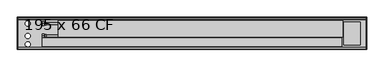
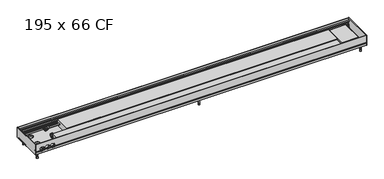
"""IFC4 building model written with IfcOpenShell, lengths in millimetres: proxy geometry, Mohlenhof_Внутрипольный конвектор_QSKM CF : 195 x 66 CF."""

from ifc_helpers import new_model, si_unit, point, frame, frame_2d, origin, place, context, project, spatial, polyline, circle_curve, ellipse_curve, trimmed, segment, composite_curve, outline, extrude, source, transform, mapped, element, save
from ifc_brep_helpers import plane_surface, cylinder_surface, revolved_surface, advanced_brep


def proxy_195_x_66_cf_86ed2aa7(model_context):
    return source(origin(), model_context, "Body", "SolidModel", [
        extrude(outline(composite_curve([segment(trimmed(circle_curve(frame_2d((0.0, -273.5)), 4.5), [point((-4.5, -273.5))], [point((4.5, -273.5))], False, "CARTESIAN"), True, "CONTINUOUS"), segment(trimmed(circle_curve(frame_2d((0.0, -273.5)), 4.5), [point((4.5, -273.5))], [point((-4.5, -273.5))], False, "CARTESIAN"), True, "CONTINUOUS")], self_intersect=False)), frame((0.0, 0.0, -110.0), z_axis=(0.0, 0.0, 1.0), x_axis=(1.0, 0.0, 0.0)), (0.0, 0.0, 1.0), 7.0),
        extrude(outline(composite_curve([segment(trimmed(circle_curve(frame_2d((0.0, -273.5)), 4.0), [point((-4.0, -273.5))], [point((4.0, -273.5))], False, "CARTESIAN"), True, "CONTINUOUS"), segment(trimmed(circle_curve(frame_2d((0.0, -273.5)), 4.0), [point((4.0, -273.5))], [point((-4.0, -273.5))], False, "CARTESIAN"), True, "CONTINUOUS")], self_intersect=False)), frame((0.0, 0.0, -103.0), z_axis=(0.0, 0.0, 1.0), x_axis=(1.0, 0.0, 0.0)), (0.0, 0.0, 1.0), 32.5),
        extrude(outline(composite_curve([segment(trimmed(circle_curve(frame_2d((0.0, -121.5)), 4.5), [point((-4.5, -121.5))], [point((4.5, -121.5))], False, "CARTESIAN"), True, "CONTINUOUS"), segment(trimmed(circle_curve(frame_2d((0.0, -121.5)), 4.5), [point((4.5, -121.5))], [point((-4.5, -121.5))], False, "CARTESIAN"), True, "CONTINUOUS")], self_intersect=False)), frame((0.0, 0.0, -110.0), z_axis=(0.0, 0.0, 1.0), x_axis=(1.0, 0.0, 0.0)), (0.0, 0.0, 1.0), 7.0),
        extrude(outline(composite_curve([segment(trimmed(circle_curve(frame_2d((0.0, -121.5)), 4.0), [point((-4.0, -121.5))], [point((4.0, -121.5))], False, "CARTESIAN"), True, "CONTINUOUS"), segment(trimmed(circle_curve(frame_2d((0.0, -121.5)), 4.0), [point((4.0, -121.5))], [point((-4.0, -121.5))], False, "CARTESIAN"), True, "CONTINUOUS")], self_intersect=False)), frame((0.0, 0.0, -103.0), z_axis=(0.0, 0.0, 1.0), x_axis=(1.0, 0.0, 0.0)), (0.0, 0.0, 1.0), 32.5),
        advanced_brep(
        [(-889.0, -213.0, -41.0), (-889.0, -201.0, -41.0), (-889.0, -225.0, -41.0), (-876.5, -220.5, -41.0), (-876.5, -205.5, -41.0), (-876.5, -213.0, -41.0), (-884.0, -220.5, -41.0), (-884.0, -205.5, -41.0)],
        [
            (0, 1),
            (1, 2, circle_curve(frame((-889.0, -213.0, -41.0), z_axis=(-1.0, 0.0, 0.0), x_axis=(0.0, 1.0, 0.0)), 12.0)),
            (2, 0),
            (2, 1, circle_curve(frame((-889.0, -213.0, -41.0), z_axis=(-1.0, 0.0, 0.0), x_axis=(0.0, 1.0, 0.0)), 12.0)),
            (3, 4, circle_curve(frame((-876.5, -213.0, -41.0), z_axis=(1.0, 0.0, 0.0), x_axis=(0.0, 1.0, 0.0)), 7.5)),
            (4, 5),
            (5, 3),
            (4, 3, circle_curve(frame((-876.5, -213.0, -41.0), z_axis=(1.0, 0.0, 0.0), x_axis=(0.0, 1.0, 0.0)), 7.5)),
            (6, 7, circle_curve(frame((-884.0, -213.0, -41.0), z_axis=(1.0, 0.0, 0.0), x_axis=(0.0, 1.0, 0.0)), 7.5)),
            (7, 4),
            (3, 6),
            (7, 6, circle_curve(frame((-884.0, -213.0, -41.0), z_axis=(1.0, 0.0, 0.0), x_axis=(0.0, 1.0, 0.0)), 7.5)),
            (1, 7),
            (6, 2),
        ],
        [
            plane_surface(frame((-889.0, -213.0, -41.0), z_axis=(-1.0, 0.0, 0.0), x_axis=(0.0, 1.0, 0.0))),
            plane_surface(frame((-876.5, -213.0, -41.0), z_axis=(1.0, 0.0, 0.0), x_axis=(0.0, 1.0, 0.0))),
            cylinder_surface(frame((-889.0, -213.0, -41.0), z_axis=(-1.0, 0.0, 0.0), x_axis=(0.0, 1.0, 0.0)), 7.5),
            revolved_surface(polyline([(-884.0, -205.5, -41.0), (-889.0, -201.0, -41.0)]), (-889.0, -213.0, -41.0), (-1.0, 0.0, 0.0)),
        ],
        [
            (0, [[1, 2, 3]]),
            (0, [[-3, 4, -1]]),
            (1, [[5, 6, 7]]),
            (1, [[8, -7, -6]]),
            (2, [[9, 10, -5, 11]]),
            (2, [[12, -11, -8, -10]]),
            (3, [[-2, 13, -9, 14]]),
            (3, [[-4, -14, -12, -13]]),
        ],
    ),
        extrude(outline(polyline([(-213.0, -27.1435935), (-201.0, -34.0717968), (-201.0, -47.9282032), (-213.0, -54.8564065), (-225.0, -47.9282032), (-225.0, -34.0717968), (-213.0, -27.1435935)]), holes=[composite_curve([segment(trimmed(circle_curve(frame_2d((-213.0, -41.0)), 8.5), [point((-204.5, -41.0))], [point((-221.5, -41.0))], True, "CARTESIAN"), True, "CONTINUOUS"), segment(trimmed(circle_curve(frame_2d((-213.0, -41.0)), 8.5), [point((-221.5, -41.0))], [point((-204.5, -41.0))], True, "CARTESIAN"), True, "CONTINUOUS")], self_intersect=False)]), frame((-900.0, 0.0, 0.0), z_axis=(1.0, 0.0, 0.0), x_axis=(0.0, 1.0, 0.0)), (0.0, 0.0, 1.0), 11.0),
        advanced_brep(
        [(-889.0, -138.0, -41.0), (-889.0, -126.0, -41.0), (-889.0, -150.0, -41.0), (-876.5, -145.5, -41.0), (-876.5, -130.5, -41.0), (-876.5, -138.0, -41.0), (-884.0, -145.5, -41.0), (-884.0, -130.5, -41.0)],
        [
            (0, 1),
            (1, 2, circle_curve(frame((-889.0, -138.0, -41.0), z_axis=(-1.0, 0.0, 0.0), x_axis=(0.0, 1.0, 0.0)), 12.0)),
            (2, 0),
            (2, 1, circle_curve(frame((-889.0, -138.0, -41.0), z_axis=(-1.0, 0.0, 0.0), x_axis=(0.0, 1.0, 0.0)), 12.0)),
            (3, 4, circle_curve(frame((-876.5, -138.0, -41.0), z_axis=(1.0, 0.0, 0.0), x_axis=(0.0, 1.0, 0.0)), 7.5)),
            (4, 5),
            (5, 3),
            (4, 3, circle_curve(frame((-876.5, -138.0, -41.0), z_axis=(1.0, 0.0, 0.0), x_axis=(0.0, 1.0, 0.0)), 7.5)),
            (6, 7, circle_curve(frame((-884.0, -138.0, -41.0), z_axis=(1.0, 0.0, 0.0), x_axis=(0.0, 1.0, 0.0)), 7.5)),
            (7, 4),
            (3, 6),
            (7, 6, circle_curve(frame((-884.0, -138.0, -41.0), z_axis=(1.0, 0.0, 0.0), x_axis=(0.0, 1.0, 0.0)), 7.5)),
            (1, 7),
            (6, 2),
        ],
        [
            plane_surface(frame((-889.0, -138.0, -41.0), z_axis=(-1.0, 0.0, 0.0), x_axis=(0.0, 1.0, 0.0))),
            plane_surface(frame((-876.5, -138.0, -41.0), z_axis=(1.0, 0.0, 0.0), x_axis=(0.0, 1.0, 0.0))),
            cylinder_surface(frame((-889.0, -138.0, -41.0), z_axis=(-1.0, 0.0, 0.0), x_axis=(0.0, 1.0, 0.0)), 7.5),
            revolved_surface(polyline([(-884.0, -130.5, -41.0), (-889.0, -126.0, -41.0)]), (-889.0, -138.0, -41.0), (-1.0, 0.0, 0.0)),
        ],
        [
            (0, [[1, 2, 3]]),
            (0, [[-3, 4, -1]]),
            (1, [[5, 6, 7]]),
            (1, [[8, -7, -6]]),
            (2, [[9, 10, -5, 11]]),
            (2, [[12, -11, -8, -10]]),
            (3, [[-2, 13, -9, 14]]),
            (3, [[-4, -14, -12, -13]]),
        ],
    ),
        extrude(outline(polyline([(-138.0, -27.1435935), (-126.0, -34.0717968), (-126.0, -47.9282032), (-138.0, -54.8564065), (-150.0, -47.9282032), (-150.0, -34.0717968), (-138.0, -27.1435935)]), holes=[composite_curve([segment(trimmed(circle_curve(frame_2d((-138.0, -41.0)), 8.5), [point((-129.5, -41.0))], [point((-146.5, -41.0))], True, "CARTESIAN"), True, "CONTINUOUS"), segment(trimmed(circle_curve(frame_2d((-138.0, -41.0)), 8.5), [point((-146.5, -41.0))], [point((-129.5, -41.0))], True, "CARTESIAN"), True, "CONTINUOUS")], self_intersect=False)]), frame((-900.0, 0.0, 0.0), z_axis=(1.0, 0.0, 0.0), x_axis=(0.0, 1.0, 0.0)), (0.0, 0.0, 1.0), 11.0),
        extrude(outline(composite_curve([segment(trimmed(circle_curve(frame_2d((-1025.0, -273.5)), 4.5), [point((-1029.5, -273.5))], [point((-1020.5, -273.5))], False, "CARTESIAN"), True, "CONTINUOUS"), segment(trimmed(circle_curve(frame_2d((-1025.0, -273.5)), 4.5), [point((-1020.5, -273.5))], [point((-1029.5, -273.5))], False, "CARTESIAN"), True, "CONTINUOUS")], self_intersect=False)), frame((0.0, 0.0, -110.0), z_axis=(0.0, 0.0, 1.0), x_axis=(1.0, 0.0, 0.0)), (0.0, 0.0, 1.0), 7.0),
        extrude(outline(composite_curve([segment(trimmed(circle_curve(frame_2d((-1025.0, -273.5)), 4.0), [point((-1029.0, -273.5))], [point((-1021.0, -273.5))], False, "CARTESIAN"), True, "CONTINUOUS"), segment(trimmed(circle_curve(frame_2d((-1025.0, -273.5)), 4.0), [point((-1021.0, -273.5))], [point((-1029.0, -273.5))], False, "CARTESIAN"), True, "CONTINUOUS")], self_intersect=False)), frame((0.0, 0.0, -103.0), z_axis=(0.0, 0.0, 1.0), x_axis=(1.0, 0.0, 0.0)), (0.0, 0.0, 1.0), 32.5),
        extrude(outline(composite_curve([segment(trimmed(circle_curve(frame_2d((-1025.0, -121.5)), 4.5), [point((-1029.5, -121.5))], [point((-1020.5, -121.5))], False, "CARTESIAN"), True, "CONTINUOUS"), segment(trimmed(circle_curve(frame_2d((-1025.0, -121.5)), 4.5), [point((-1020.5, -121.5))], [point((-1029.5, -121.5))], False, "CARTESIAN"), True, "CONTINUOUS")], self_intersect=False)), frame((0.0, 0.0, -110.0), z_axis=(0.0, 0.0, 1.0), x_axis=(1.0, 0.0, 0.0)), (0.0, 0.0, 1.0), 7.0),
        extrude(outline(composite_curve([segment(trimmed(circle_curve(frame_2d((-1025.0, -121.5)), 4.0), [point((-1029.0, -121.5))], [point((-1021.0, -121.5))], False, "CARTESIAN"), True, "CONTINUOUS"), segment(trimmed(circle_curve(frame_2d((-1025.0, -121.5)), 4.0), [point((-1021.0, -121.5))], [point((-1029.0, -121.5))], False, "CARTESIAN"), True, "CONTINUOUS")], self_intersect=False)), frame((0.0, 0.0, -103.0), z_axis=(0.0, 0.0, 1.0), x_axis=(1.0, 0.0, 0.0)), (0.0, 0.0, 1.0), 32.5),
        extrude(outline(composite_curve([segment(trimmed(circle_curve(frame_2d((1025.0, -273.5)), 4.5), [point((1020.5, -273.5))], [point((1029.5, -273.5))], False, "CARTESIAN"), True, "CONTINUOUS"), segment(trimmed(circle_curve(frame_2d((1025.0, -273.5)), 4.5), [point((1029.5, -273.5))], [point((1020.5, -273.5))], False, "CARTESIAN"), True, "CONTINUOUS")], self_intersect=False)), frame((0.0, 0.0, -110.0), z_axis=(0.0, 0.0, 1.0), x_axis=(1.0, 0.0, 0.0)), (0.0, 0.0, 1.0), 7.0),
        extrude(outline(composite_curve([segment(trimmed(circle_curve(frame_2d((1025.0, -273.5)), 4.0), [point((1021.0, -273.5))], [point((1029.0, -273.5))], False, "CARTESIAN"), True, "CONTINUOUS"), segment(trimmed(circle_curve(frame_2d((1025.0, -273.5)), 4.0), [point((1029.0, -273.5))], [point((1021.0, -273.5))], False, "CARTESIAN"), True, "CONTINUOUS")], self_intersect=False)), frame((0.0, 0.0, -103.0), z_axis=(0.0, 0.0, 1.0), x_axis=(1.0, 0.0, 0.0)), (0.0, 0.0, 1.0), 32.5),
        extrude(outline(composite_curve([segment(trimmed(circle_curve(frame_2d((1025.0, -121.5)), 4.5), [point((1020.5, -121.5))], [point((1029.5, -121.5))], False, "CARTESIAN"), True, "CONTINUOUS"), segment(trimmed(circle_curve(frame_2d((1025.0, -121.5)), 4.5), [point((1029.5, -121.5))], [point((1020.5, -121.5))], False, "CARTESIAN"), True, "CONTINUOUS")], self_intersect=False)), frame((0.0, 0.0, -110.0), z_axis=(0.0, 0.0, 1.0), x_axis=(1.0, 0.0, 0.0)), (0.0, 0.0, 1.0), 7.0),
        extrude(outline(composite_curve([segment(trimmed(circle_curve(frame_2d((1025.0, -121.5)), 4.0), [point((1021.0, -121.5))], [point((1029.0, -121.5))], False, "CARTESIAN"), True, "CONTINUOUS"), segment(trimmed(circle_curve(frame_2d((1025.0, -121.5)), 4.0), [point((1029.0, -121.5))], [point((1021.0, -121.5))], False, "CARTESIAN"), True, "CONTINUOUS")], self_intersect=False)), frame((0.0, 0.0, -103.0), z_axis=(0.0, 0.0, 1.0), x_axis=(1.0, 0.0, 0.0)), (0.0, 0.0, 1.0), 32.5),
        extrude(outline(polyline([(-62.5, 1001.0), (-44.5, 1001.0), (-44.5, 1010.0), (-29.5, 1010.0), (-29.5, 1013.0), (-19.5, 1013.0), (-19.5, 913.0), (-29.5, 913.0), (-29.5, 916.0), (-62.5, 916.0), (-62.5, 1001.0)])), frame((0.0, -267.5, 0.0), z_axis=(0.0, 1.0, 0.0), x_axis=(0.0, 0.0, 1.0)), (0.0, 0.0, 1.0), 140.0),
        extrude(outline(polyline([(900.0, -225.87), (900.0, -277.18), (-900.0, -277.18), (-900.0, -225.87), (900.0, -225.87)])), frame((0.0, 0.0, -62.5), z_axis=(0.0, 0.0, 1.0), x_axis=(1.0, 0.0, 0.0)), (0.0, 0.0, 1.0), 43.62),
        extrude(outline(composite_curve([segment(trimmed(circle_curve(frame_2d((-213.0, -41.0)), 5.0), [point((-218.0, -41.0))], [point((-208.0, -41.0))], False, "CARTESIAN"), True, "CONTINUOUS"), segment(trimmed(circle_curve(frame_2d((-213.0, -41.0)), 5.0), [point((-208.0, -41.0))], [point((-218.0, -41.0))], False, "CARTESIAN"), True, "CONTINUOUS")], self_intersect=False)), frame((-900.0, 0.0, 0.0), z_axis=(1.0, 0.0, 0.0), x_axis=(0.0, 1.0, 0.0)), (0.0, 0.0, 1.0), 95.0),
        extrude(outline(composite_curve([segment(trimmed(circle_curve(frame_2d((-138.0, -41.0)), 5.0), [point((-143.0, -41.0))], [point((-133.0, -41.0))], False, "CARTESIAN"), True, "CONTINUOUS"), segment(trimmed(circle_curve(frame_2d((-138.0, -41.0)), 5.0), [point((-133.0, -41.0))], [point((-143.0, -41.0))], False, "CARTESIAN"), True, "CONTINUOUS")], self_intersect=False)), frame((-900.0, 0.0, 0.0), z_axis=(1.0, 0.0, 0.0), x_axis=(0.0, 1.0, 0.0)), (0.0, 0.0, 1.0), 95.0),
        advanced_brep(
        [(1048.0, -295.0, -48.5473602), (1048.0, -293.5, -49.2468216), (1048.0, -292.5, -49.2468216), (1048.0, -292.5, -46.0008038), (1048.0, -290.0, -46.0008038), (1048.0, -290.0, -56.5008038), (1048.0, -292.5, -56.5008038), (1048.0, -292.5, -53.2468216), (1048.0, -293.5, -53.2468216), (1048.0, -295.0, -53.9462831), (1048.0, -295.0, -66.5), (1048.0, -291.0, -66.5), (1048.0, -291.0, -65.2), (1048.0, -293.0, -65.2), (1048.0, -293.0, -62.5), (1048.0, -282.0, -62.5), (1048.0, -282.0, -54.9172677), (1048.0, -283.4172677, -53.5), (1048.0, -287.0, -53.5), (1048.0, -287.0, -45.91), (1048.0, -289.0, -43.91), (1048.0, -289.0, -39.5), (1048.0, -290.0, -39.5), (1048.0, -290.0, -43.5), (1048.0, -292.4956439, -43.5), (1048.0, -292.4956439, -23.0), (1048.0, -290.0, -23.0), (1048.0, -290.0, -27.0), (1048.0, -289.0, -27.0), (1048.0, -289.0, -17.0), (1048.0, -283.3956439, -17.0), (1048.0, -283.3956439, -15.0), (1048.0, -293.4, -15.0), (1048.0, -293.4, 0.0), (1048.0, -295.0, 0.0), (-1048.0, -295.0, -48.5473602), (-1048.0, -295.0, 0.0), (-1048.0, -293.4, 0.0), (-1048.0, -293.4, -15.0), (-1048.0, -283.3956439, -15.0), (-1048.0, -283.3956439, -17.0), (-1048.0, -289.0, -17.0), (-1048.0, -289.0, -27.0), (-1048.0, -290.0, -27.0), (-1048.0, -290.0, -23.0), (-1048.0, -292.4956439, -23.0), (-1048.0, -292.4956439, -43.5), (-1048.0, -290.0, -43.5), (-1048.0, -290.0, -39.5), (-1048.0, -289.0, -39.5), (-1048.0, -289.0, -43.91), (-1048.0, -287.0, -45.91), (-1048.0, -287.0, -53.5), (-1048.0, -283.4172677, -53.5), (-1048.0, -282.0, -54.9172677), (-1048.0, -282.0, -62.5), (-1048.0, -293.0, -62.5), (-1048.0, -293.0, -65.2), (-1048.0, -291.0, -65.2), (-1048.0, -291.0, -66.5), (-1048.0, -295.0, -66.5), (-1048.0, -295.0, -53.9462831), (-1048.0, -293.5, -53.2468216), (-1048.0, -292.5, -53.2468216), (-1048.0, -292.5, -56.5008038), (-1048.0, -290.0, -56.5008038), (-1048.0, -290.0, -46.0008038), (-1048.0, -292.5, -46.0008038), (-1048.0, -292.5, -49.2468216), (-1048.0, -293.5, -49.2468216), (-928.7585985, -295.0, -48.5473602), (-929.155283, -293.5, -49.2468216), (-1020.844717, -293.5, -49.2468216), (-1021.2414015, -295.0, -48.5473602), (-988.2414015, -295.0, -48.5473602), (-994.7585985, -295.0, -48.5473602), (-995.155283, -293.5, -49.2468216), (-987.844717, -293.5, -49.2468216), (-955.2414015, -295.0, -48.5473602), (-961.7585985, -295.0, -48.5473602), (-962.155283, -293.5, -49.2468216), (-954.844717, -293.5, -49.2468216), (-929.155283, -292.5, -49.2468216), (-1020.844717, -292.5, -49.2468216), (-995.155283, -292.5, -49.2468216), (-987.844717, -292.5, -49.2468216), (-962.155283, -292.5, -49.2468216), (-954.844717, -292.5, -49.2468216), (-927.6911648, -292.5, -46.0008038), (-1022.3088352, -292.5, -46.0008038), (-993.6911648, -292.5, -46.0008038), (-989.3088352, -292.5, -46.0008038), (-960.6911648, -292.5, -46.0008038), (-956.3088352, -292.5, -46.0008038), (-927.6911648, -290.0, -46.0008038), (-1022.3088352, -290.0, -46.0008038), (-993.6911648, -290.0, -46.0008038), (-989.3088352, -290.0, -46.0008038), (-960.6911648, -290.0, -46.0008038), (-956.3088352, -290.0, -46.0008038), (-1017.328032, -292.5, -53.2468216), (-998.671968, -292.5, -53.2468216), (-984.328032, -292.5, -53.2468216), (-965.671968, -292.5, -53.2468216), (-951.328032, -292.5, -53.2468216), (-932.671968, -292.5, -53.2468216), (-932.671968, -293.5, -53.2468216), (-1017.328032, -293.5, -53.2468216), (-998.671968, -293.5, -53.2468216), (-984.328032, -293.5, -53.2468216), (-965.671968, -293.5, -53.2468216), (-951.328032, -293.5, -53.2468216), (-933.6280208, -295.0, -53.9462831), (-1016.3719792, -295.0, -53.9462831), (-999.6280208, -295.0, -53.9462831), (-983.3719792, -295.0, -53.9462831), (-966.6280208, -295.0, -53.9462831), (-950.3719792, -295.0, -53.9462831), (-1014.7064841, -282.0, -54.9172677), (-1001.2935159, -282.0, -54.9172677), (-981.7064841, -282.0, -54.9172677), (-968.2935159, -282.0, -54.9172677), (-948.7064841, -282.0, -54.9172677), (-935.2935159, -282.0, -54.9172677), (-933.0, -283.4172677, -53.5), (-1017.0, -283.4172677, -53.5), (-999.0, -283.4172677, -53.5), (-984.0, -283.4172677, -53.5), (-966.0, -283.4172677, -53.5), (-951.0, -283.4172677, -53.5), (-933.0, -287.0, -53.5), (-1017.0, -287.0, -53.5), (-999.0, -287.0, -53.5), (-984.0, -287.0, -53.5), (-966.0, -287.0, -53.5), (-951.0, -287.0, -53.5), (-927.6629187, -287.0, -45.91), (-1022.3370813, -287.0, -45.91), (-993.6629187, -287.0, -45.91), (-989.3370813, -287.0, -45.91), (-960.6629187, -287.0, -45.91), (-956.3370813, -287.0, -45.91), (-927.1948691, -289.0, -43.91), (-1022.8051309, -289.0, -43.91), (-993.1948691, -289.0, -43.91), (-989.8051309, -289.0, -43.91), (-960.1948691, -289.0, -43.91), (-956.8051309, -289.0, -43.91), (-927.0, -289.0, -41.5), (-927.1339313, -289.0, -39.5), (-1022.8660687, -289.0, -39.5), (-1023.0, -289.0, -41.5), (-993.0, -289.0, -41.5), (-993.1339313, -289.0, -39.5), (-989.8660687, -289.0, -39.5), (-990.0, -289.0, -41.5), (-960.0, -289.0, -41.5), (-960.1339313, -289.0, -39.5), (-956.8660687, -289.0, -39.5), (-957.0, -289.0, -41.5), (-927.1339313, -290.0, -39.5), (-1022.8660687, -290.0, -39.5), (-993.1339313, -290.0, -39.5), (-989.8660687, -290.0, -39.5), (-960.1339313, -290.0, -39.5), (-956.8660687, -290.0, -39.5), (-927.0, -290.0, -41.5), (-927.1339313, -290.0, -43.5), (-1022.8660687, -290.0, -43.5), (-1023.0, -290.0, -41.5), (-993.0, -290.0, -41.5), (-993.1339313, -290.0, -43.5), (-989.8660687, -290.0, -43.5), (-990.0, -290.0, -41.5), (-960.0, -290.0, -41.5), (-960.1339313, -290.0, -43.5), (-956.8660687, -290.0, -43.5), (-957.0, -290.0, -41.5), (-927.1339313, -292.4956439, -43.5), (-1022.8660687, -292.4956439, -43.5), (-993.1339313, -292.4956439, -43.5), (-989.8660687, -292.4956439, -43.5), (-960.1339313, -292.4956439, -43.5), (-956.8660687, -292.4956439, -43.5), (-927.0, -292.4956439, -41.5), (-957.0, -292.4956439, -41.5), (-960.0, -292.4956439, -41.5), (-990.0, -292.4956439, -41.5), (-993.0, -292.4956439, -41.5), (-1023.0, -292.4956439, -41.5), (-1011.8405729, -290.0, -27.0), (-1004.1594271, -290.0, -27.0), (-978.8405729, -290.0, -27.0), (-971.1594271, -290.0, -27.0), (-945.8405729, -290.0, -27.0), (-938.1594271, -290.0, -27.0), (-938.1594271, -289.0, -27.0), (-1011.8405729, -289.0, -27.0), (-1004.1594271, -289.0, -27.0), (-978.8405729, -289.0, -27.0), (-971.1594271, -289.0, -27.0), (-945.8405729, -289.0, -27.0), (-1023.0, -295.0, -41.5), (-993.0, -295.0, -41.5), (-990.0, -295.0, -41.5), (-960.0, -295.0, -41.5), (-957.0, -295.0, -41.5), (-927.0, -295.0, -41.5)],
        [
            (0, 1),
            (1, 2),
            (2, 3),
            (3, 4),
            (4, 5),
            (5, 6),
            (6, 7),
            (7, 8),
            (8, 9),
            (9, 10),
            (10, 11),
            (11, 12),
            (12, 13),
            (13, 14),
            (14, 15),
            (15, 16),
            (16, 17),
            (17, 18),
            (18, 19),
            (19, 20),
            (20, 21),
            (21, 22),
            (22, 23),
            (23, 24),
            (24, 25),
            (25, 26),
            (26, 27),
            (27, 28),
            (28, 29),
            (29, 30),
            (30, 31),
            (31, 32),
            (32, 33),
            (33, 34),
            (34, 0),
            (35, 36),
            (36, 37),
            (37, 38),
            (38, 39),
            (39, 40),
            (40, 41),
            (41, 42),
            (42, 43),
            (43, 44),
            (44, 45),
            (45, 46),
            (46, 47),
            (47, 48),
            (48, 49),
            (49, 50),
            (50, 51),
            (51, 52),
            (52, 53),
            (53, 54),
            (54, 55),
            (55, 56),
            (56, 57),
            (57, 58),
            (58, 59),
            (59, 60),
            (60, 61),
            (61, 62),
            (62, 63),
            (63, 64),
            (64, 65),
            (65, 66),
            (66, 67),
            (67, 68),
            (68, 69),
            (69, 35),
            (0, 70),
            (70, 71, ellipse_curve(frame((-942.0, -310.1131126, -41.5), z_axis=(0.0, 0.42261826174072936, 0.9063077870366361), x_axis=(0.0, -0.906307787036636, 0.4226182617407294)), 35.4930237, 15.0)),
            (71, 1),
            (69, 72),
            (72, 73, ellipse_curve(frame((-1008.0, -310.1131126, -41.5), z_axis=(0.0, 0.42261826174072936, 0.9063077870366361), x_axis=(0.0, -0.906307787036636, 0.4226182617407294)), 35.4930237, 15.0)),
            (73, 35),
            (74, 75),
            (75, 76, ellipse_curve(frame((-1008.0, -310.1131126, -41.5), z_axis=(0.0, 0.42261826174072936, 0.9063077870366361), x_axis=(0.0, -0.906307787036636, 0.4226182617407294)), 35.4930237, 15.0)),
            (76, 77),
            (77, 74, ellipse_curve(frame((-975.0, -310.1131126, -41.5), z_axis=(0.0, 0.42261826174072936, 0.9063077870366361), x_axis=(0.0, -0.906307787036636, 0.4226182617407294)), 35.4930237, 15.0)),
            (78, 79),
            (79, 80, ellipse_curve(frame((-975.0, -310.1131126, -41.5), z_axis=(0.0, 0.42261826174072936, 0.9063077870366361), x_axis=(0.0, -0.906307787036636, 0.4226182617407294)), 35.4930237, 15.0)),
            (80, 81),
            (81, 78, ellipse_curve(frame((-942.0, -310.1131126, -41.5), z_axis=(0.0, 0.42261826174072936, 0.9063077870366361), x_axis=(0.0, -0.906307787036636, 0.4226182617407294)), 35.4930237, 15.0)),
            (71, 82),
            (82, 2),
            (68, 83),
            (83, 72),
            (76, 84),
            (84, 85),
            (85, 77),
            (80, 86),
            (86, 87),
            (87, 81),
            (82, 88, circle_curve(frame((-942.0, -292.5, -41.5), z_axis=(0.0, -1.0, 0.0), x_axis=(1.0, 0.0, 0.0)), 15.0)),
            (88, 3),
            (67, 89),
            (89, 83, circle_curve(frame((-1008.0, -292.5, -41.5), z_axis=(0.0, -1.0, 0.0), x_axis=(1.0, 0.0, 0.0)), 15.0)),
            (84, 90, circle_curve(frame((-1008.0, -292.5, -41.5), z_axis=(0.0, -1.0, 0.0), x_axis=(1.0, 0.0, 0.0)), 15.0)),
            (90, 91),
            (91, 85, circle_curve(frame((-975.0, -292.5, -41.5), z_axis=(0.0, -1.0, 0.0), x_axis=(1.0, 0.0, 0.0)), 15.0)),
            (86, 92, circle_curve(frame((-975.0, -292.5, -41.5), z_axis=(0.0, -1.0, 0.0), x_axis=(1.0, 0.0, 0.0)), 15.0)),
            (92, 93),
            (93, 87, circle_curve(frame((-942.0, -292.5, -41.5), z_axis=(0.0, -1.0, 0.0), x_axis=(1.0, 0.0, 0.0)), 15.0)),
            (88, 94),
            (94, 4),
            (66, 95),
            (95, 89),
            (90, 96),
            (96, 97),
            (97, 91),
            (92, 98),
            (98, 99),
            (99, 93),
            (94, 99, circle_curve(frame((-942.0, -290.0, -41.5), z_axis=(0.0, 1.0, 0.0), x_axis=(1.0, 0.0, 0.0)), 15.0)),
            (98, 97, circle_curve(frame((-975.0, -290.0, -41.5), z_axis=(0.0, 1.0, 0.0), x_axis=(1.0, 0.0, 0.0)), 15.0)),
            (96, 95, circle_curve(frame((-1008.0, -290.0, -41.5), z_axis=(0.0, 1.0, 0.0), x_axis=(1.0, 0.0, 0.0)), 15.0)),
            (65, 5),
            (64, 6),
            (63, 100),
            (100, 101, circle_curve(frame((-1008.0, -292.5, -41.5), z_axis=(0.0, -1.0, 0.0), x_axis=(1.0, 0.0, 0.0)), 15.0)),
            (101, 102),
            (102, 103, circle_curve(frame((-975.0, -292.5, -41.5), z_axis=(0.0, -1.0, 0.0), x_axis=(1.0, 0.0, 0.0)), 15.0)),
            (103, 104),
            (104, 105, circle_curve(frame((-942.0, -292.5, -41.5), z_axis=(0.0, -1.0, 0.0), x_axis=(1.0, 0.0, 0.0)), 15.0)),
            (105, 7),
            (105, 106),
            (106, 8),
            (62, 107),
            (107, 100),
            (101, 108),
            (108, 109),
            (109, 102),
            (103, 110),
            (110, 111),
            (111, 104),
            (106, 112, ellipse_curve(frame((-942.0, -268.3088597, -41.5), z_axis=(0.0, 0.4226182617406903, -0.9063077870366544), x_axis=(0.0, -0.9063077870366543, -0.42261826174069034)), 35.4930237, 15.0)),
            (112, 9),
            (61, 113),
            (113, 107, ellipse_curve(frame((-1008.0, -268.3088597, -41.5), z_axis=(0.0, 0.4226182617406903, -0.9063077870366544), x_axis=(0.0, -0.9063077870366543, -0.42261826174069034)), 35.4930237, 15.0)),
            (108, 114, ellipse_curve(frame((-1008.0, -268.3088597, -41.5), z_axis=(0.0, 0.4226182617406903, -0.9063077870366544), x_axis=(0.0, -0.9063077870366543, -0.42261826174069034)), 35.4930237, 15.0)),
            (114, 115),
            (115, 109, ellipse_curve(frame((-975.0, -268.3088597, -41.5), z_axis=(0.0, 0.4226182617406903, -0.9063077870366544), x_axis=(0.0, -0.9063077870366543, -0.42261826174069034)), 35.4930237, 15.0)),
            (110, 116, ellipse_curve(frame((-975.0, -268.3088597, -41.5), z_axis=(0.0, 0.4226182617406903, -0.9063077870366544), x_axis=(0.0, -0.9063077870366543, -0.42261826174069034)), 35.4930237, 15.0)),
            (116, 117),
            (117, 111, ellipse_curve(frame((-942.0, -268.3088597, -41.5), z_axis=(0.0, 0.4226182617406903, -0.9063077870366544), x_axis=(0.0, -0.9063077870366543, -0.42261826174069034)), 35.4930237, 15.0)),
            (112, 117, circle_curve(frame((-942.0, -295.0, -41.5), z_axis=(0.0, 1.0, 0.0), x_axis=(1.0, 0.0, 0.0)), 15.0)),
            (116, 115, circle_curve(frame((-975.0, -295.0, -41.5), z_axis=(0.0, 1.0, 0.0), x_axis=(1.0, 0.0, 0.0)), 15.0)),
            (114, 113, circle_curve(frame((-1008.0, -295.0, -41.5), z_axis=(0.0, 1.0, 0.0), x_axis=(1.0, 0.0, 0.0)), 15.0)),
            (60, 10),
            (59, 11),
            (58, 12),
            (57, 13),
            (56, 14),
            (55, 15),
            (54, 118),
            (118, 119, circle_curve(frame((-1008.0, -282.0, -41.5), z_axis=(0.0, -1.0, 0.0), x_axis=(1.0, 0.0, 0.0)), 15.0)),
            (119, 120),
            (120, 121, circle_curve(frame((-975.0, -282.0, -41.5), z_axis=(0.0, -1.0, 0.0), x_axis=(1.0, 0.0, 0.0)), 15.0)),
            (121, 122),
            (122, 123, circle_curve(frame((-942.0, -282.0, -41.5), z_axis=(0.0, -1.0, 0.0), x_axis=(1.0, 0.0, 0.0)), 15.0)),
            (123, 16),
            (123, 124, ellipse_curve(frame((-942.0, -295.4172677, -41.5), z_axis=(0.0, -0.7071067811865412, -0.7071067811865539), x_axis=(0.0, -0.7071067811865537, 0.7071067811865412)), 21.2132034, 15.0)),
            (124, 17),
            (53, 125),
            (125, 118, ellipse_curve(frame((-1008.0, -295.4172677, -41.5), z_axis=(0.0, -0.7071067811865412, -0.7071067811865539), x_axis=(0.0, -0.7071067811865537, 0.7071067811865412)), 21.2132034, 15.0)),
            (119, 126, ellipse_curve(frame((-1008.0, -295.4172677, -41.5), z_axis=(0.0, -0.7071067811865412, -0.7071067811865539), x_axis=(0.0, -0.7071067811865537, 0.7071067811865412)), 21.2132034, 15.0)),
            (126, 127),
            (127, 120, ellipse_curve(frame((-975.0, -295.4172677, -41.5), z_axis=(0.0, -0.7071067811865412, -0.7071067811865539), x_axis=(0.0, -0.7071067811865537, 0.7071067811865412)), 21.2132034, 15.0)),
            (121, 128, ellipse_curve(frame((-975.0, -295.4172677, -41.5), z_axis=(0.0, -0.7071067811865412, -0.7071067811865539), x_axis=(0.0, -0.7071067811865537, 0.7071067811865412)), 21.2132034, 15.0)),
            (128, 129),
            (129, 122, ellipse_curve(frame((-942.0, -295.4172677, -41.5), z_axis=(0.0, -0.7071067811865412, -0.7071067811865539), x_axis=(0.0, -0.7071067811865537, 0.7071067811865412)), 21.2132034, 15.0)),
            (124, 130),
            (130, 18),
            (52, 131),
            (131, 125),
            (126, 132),
            (132, 133),
            (133, 127),
            (128, 134),
            (134, 135),
            (135, 129),
            (130, 136, circle_curve(frame((-942.0, -287.0, -41.5), z_axis=(0.0, -1.0, 0.0), x_axis=(1.0, 0.0, 0.0)), 15.0)),
            (136, 19),
            (51, 137),
            (137, 131, circle_curve(frame((-1008.0, -287.0, -41.5), z_axis=(0.0, -1.0, 0.0), x_axis=(1.0, 0.0, 0.0)), 15.0)),
            (132, 138, circle_curve(frame((-1008.0, -287.0, -41.5), z_axis=(0.0, -1.0, 0.0), x_axis=(1.0, 0.0, 0.0)), 15.0)),
            (138, 139),
            (139, 133, circle_curve(frame((-975.0, -287.0, -41.5), z_axis=(0.0, -1.0, 0.0), x_axis=(1.0, 0.0, 0.0)), 15.0)),
            (134, 140, circle_curve(frame((-975.0, -287.0, -41.5), z_axis=(0.0, -1.0, 0.0), x_axis=(1.0, 0.0, 0.0)), 15.0)),
            (140, 141),
            (141, 135, circle_curve(frame((-942.0, -287.0, -41.5), z_axis=(0.0, -1.0, 0.0), x_axis=(1.0, 0.0, 0.0)), 15.0)),
            (136, 142, ellipse_curve(frame((-942.0, -291.41, -41.5), z_axis=(0.0, -0.7071067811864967, -0.7071067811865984), x_axis=(0.0, -0.7071067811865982, 0.7071067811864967)), 21.2132034, 15.0)),
            (142, 20),
            (50, 143),
            (143, 137, ellipse_curve(frame((-1008.0, -291.41, -41.5), z_axis=(0.0, -0.7071067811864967, -0.7071067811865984), x_axis=(0.0, -0.7071067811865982, 0.7071067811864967)), 21.2132034, 15.0)),
            (138, 144, ellipse_curve(frame((-1008.0, -291.41, -41.5), z_axis=(0.0, -0.7071067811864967, -0.7071067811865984), x_axis=(0.0, -0.7071067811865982, 0.7071067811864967)), 21.2132034, 15.0)),
            (144, 145),
            (145, 139, ellipse_curve(frame((-975.0, -291.41, -41.5), z_axis=(0.0, -0.7071067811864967, -0.7071067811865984), x_axis=(0.0, -0.7071067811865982, 0.7071067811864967)), 21.2132034, 15.0)),
            (140, 146, ellipse_curve(frame((-975.0, -291.41, -41.5), z_axis=(0.0, -0.7071067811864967, -0.7071067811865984), x_axis=(0.0, -0.7071067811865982, 0.7071067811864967)), 21.2132034, 15.0)),
            (146, 147),
            (147, 141, ellipse_curve(frame((-942.0, -291.41, -41.5), z_axis=(0.0, -0.7071067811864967, -0.7071067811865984), x_axis=(0.0, -0.7071067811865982, 0.7071067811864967)), 21.2132034, 15.0)),
            (142, 148, circle_curve(frame((-942.0, -289.0, -41.5), z_axis=(0.0, -1.0, 0.0), x_axis=(1.0, 0.0, 0.0)), 15.0)),
            (148, 149, circle_curve(frame((-942.0, -289.0, -41.5), z_axis=(0.0, -1.0, 0.0), x_axis=(1.0, 0.0, 0.0)), 15.0)),
            (149, 21),
            (49, 150),
            (150, 151, circle_curve(frame((-1008.0, -289.0, -41.5), z_axis=(0.0, -1.0, 0.0), x_axis=(1.0, 0.0, 0.0)), 15.0)),
            (151, 143, circle_curve(frame((-1008.0, -289.0, -41.5), z_axis=(0.0, -1.0, 0.0), x_axis=(1.0, 0.0, 0.0)), 15.0)),
            (144, 152, circle_curve(frame((-1008.0, -289.0, -41.5), z_axis=(0.0, -1.0, 0.0), x_axis=(1.0, 0.0, 0.0)), 15.0)),
            (152, 153, circle_curve(frame((-1008.0, -289.0, -41.5), z_axis=(0.0, -1.0, 0.0), x_axis=(1.0, 0.0, 0.0)), 15.0)),
            (153, 154),
            (154, 155, circle_curve(frame((-975.0, -289.0, -41.5), z_axis=(0.0, -1.0, 0.0), x_axis=(1.0, 0.0, 0.0)), 15.0)),
            (155, 145, circle_curve(frame((-975.0, -289.0, -41.5), z_axis=(0.0, -1.0, 0.0), x_axis=(1.0, 0.0, 0.0)), 15.0)),
            (146, 156, circle_curve(frame((-975.0, -289.0, -41.5), z_axis=(0.0, -1.0, 0.0), x_axis=(1.0, 0.0, 0.0)), 15.0)),
            (156, 157, circle_curve(frame((-975.0, -289.0, -41.5), z_axis=(0.0, -1.0, 0.0), x_axis=(1.0, 0.0, 0.0)), 15.0)),
            (157, 158),
            (158, 159, circle_curve(frame((-942.0, -289.0, -41.5), z_axis=(0.0, -1.0, 0.0), x_axis=(1.0, 0.0, 0.0)), 15.0)),
            (159, 147, circle_curve(frame((-942.0, -289.0, -41.5), z_axis=(0.0, -1.0, 0.0), x_axis=(1.0, 0.0, 0.0)), 15.0)),
            (149, 160),
            (160, 22),
            (48, 161),
            (161, 150),
            (153, 162),
            (162, 163),
            (163, 154),
            (157, 164),
            (164, 165),
            (165, 158),
            (160, 166, circle_curve(frame((-942.0, -290.0, -41.5), z_axis=(0.0, 1.0, 0.0), x_axis=(1.0, 0.0, 0.0)), 15.0)),
            (166, 167, circle_curve(frame((-942.0, -290.0, -41.5), z_axis=(0.0, 1.0, 0.0), x_axis=(1.0, 0.0, 0.0)), 15.0)),
            (167, 23),
            (47, 168),
            (168, 169, circle_curve(frame((-1008.0, -290.0, -41.5), z_axis=(0.0, 1.0, 0.0), x_axis=(1.0, 0.0, 0.0)), 15.0)),
            (169, 161, circle_curve(frame((-1008.0, -290.0, -41.5), z_axis=(0.0, 1.0, 0.0), x_axis=(1.0, 0.0, 0.0)), 15.0)),
            (162, 170, circle_curve(frame((-1008.0, -290.0, -41.5), z_axis=(0.0, 1.0, 0.0), x_axis=(1.0, 0.0, 0.0)), 15.0)),
            (170, 171, circle_curve(frame((-1008.0, -290.0, -41.5), z_axis=(0.0, 1.0, 0.0), x_axis=(1.0, 0.0, 0.0)), 15.0)),
            (171, 172),
            (172, 173, circle_curve(frame((-975.0, -290.0, -41.5), z_axis=(0.0, 1.0, 0.0), x_axis=(1.0, 0.0, 0.0)), 15.0)),
            (173, 163, circle_curve(frame((-975.0, -290.0, -41.5), z_axis=(0.0, 1.0, 0.0), x_axis=(1.0, 0.0, 0.0)), 15.0)),
            (164, 174, circle_curve(frame((-975.0, -290.0, -41.5), z_axis=(0.0, 1.0, 0.0), x_axis=(1.0, 0.0, 0.0)), 15.0)),
            (174, 175, circle_curve(frame((-975.0, -290.0, -41.5), z_axis=(0.0, 1.0, 0.0), x_axis=(1.0, 0.0, 0.0)), 15.0)),
            (175, 176),
            (176, 177, circle_curve(frame((-942.0, -290.0, -41.5), z_axis=(0.0, 1.0, 0.0), x_axis=(1.0, 0.0, 0.0)), 15.0)),
            (177, 165, circle_curve(frame((-942.0, -290.0, -41.5), z_axis=(0.0, 1.0, 0.0), x_axis=(1.0, 0.0, 0.0)), 15.0)),
            (167, 178),
            (178, 24),
            (46, 179),
            (179, 168),
            (171, 180),
            (180, 181),
            (181, 172),
            (175, 182),
            (182, 183),
            (183, 176),
            (178, 184, circle_curve(frame((-942.0, -292.4956439, -41.5), z_axis=(0.0, -1.0, 0.0), x_axis=(1.0, 0.0, 0.0)), 15.0)),
            (184, 185, circle_curve(frame((-942.0, -292.4956439, -41.5), z_axis=(0.0, -1.0, 0.0), x_axis=(1.0, 0.0, 0.0)), 15.0)),
            (185, 183, circle_curve(frame((-942.0, -292.4956439, -41.5), z_axis=(0.0, -1.0, 0.0), x_axis=(1.0, 0.0, 0.0)), 15.0)),
            (182, 186, circle_curve(frame((-975.0, -292.4956439, -41.5), z_axis=(0.0, -1.0, 0.0), x_axis=(1.0, 0.0, 0.0)), 15.0)),
            (186, 187, circle_curve(frame((-975.0, -292.4956439, -41.5), z_axis=(0.0, -1.0, 0.0), x_axis=(1.0, 0.0, 0.0)), 15.0)),
            (187, 181, circle_curve(frame((-975.0, -292.4956439, -41.5), z_axis=(0.0, -1.0, 0.0), x_axis=(1.0, 0.0, 0.0)), 15.0)),
            (180, 188, circle_curve(frame((-1008.0, -292.4956439, -41.5), z_axis=(0.0, -1.0, 0.0), x_axis=(1.0, 0.0, 0.0)), 15.0)),
            (188, 189, circle_curve(frame((-1008.0, -292.4956439, -41.5), z_axis=(0.0, -1.0, 0.0), x_axis=(1.0, 0.0, 0.0)), 15.0)),
            (189, 179, circle_curve(frame((-1008.0, -292.4956439, -41.5), z_axis=(0.0, -1.0, 0.0), x_axis=(1.0, 0.0, 0.0)), 15.0)),
            (45, 25),
            (44, 26),
            (43, 190),
            (190, 191, circle_curve(frame((-1008.0, -290.0, -41.5), z_axis=(0.0, 1.0, 0.0), x_axis=(1.0, 0.0, 0.0)), 15.0)),
            (191, 192),
            (192, 193, circle_curve(frame((-975.0, -290.0, -41.5), z_axis=(0.0, 1.0, 0.0), x_axis=(1.0, 0.0, 0.0)), 15.0)),
            (193, 194),
            (194, 195, circle_curve(frame((-942.0, -290.0, -41.5), z_axis=(0.0, 1.0, 0.0), x_axis=(1.0, 0.0, 0.0)), 15.0)),
            (195, 27),
            (195, 196),
            (196, 28),
            (42, 197),
            (197, 190),
            (191, 198),
            (198, 199),
            (199, 192),
            (193, 200),
            (200, 201),
            (201, 194),
            (196, 201, circle_curve(frame((-942.0, -289.0, -41.5), z_axis=(0.0, -1.0, 0.0), x_axis=(1.0, 0.0, 0.0)), 15.0)),
            (200, 199, circle_curve(frame((-975.0, -289.0, -41.5), z_axis=(0.0, -1.0, 0.0), x_axis=(1.0, 0.0, 0.0)), 15.0)),
            (198, 197, circle_curve(frame((-1008.0, -289.0, -41.5), z_axis=(0.0, -1.0, 0.0), x_axis=(1.0, 0.0, 0.0)), 15.0)),
            (41, 29),
            (40, 30),
            (39, 31),
            (38, 32),
            (37, 33),
            (36, 34),
            (73, 202, circle_curve(frame((-1008.0, -295.0, -41.5), z_axis=(0.0, 1.0, 0.0), x_axis=(1.0, 0.0, 0.0)), 15.0)),
            (202, 203, circle_curve(frame((-1008.0, -295.0, -41.5), z_axis=(0.0, 1.0, 0.0), x_axis=(1.0, 0.0, 0.0)), 15.0)),
            (203, 75, circle_curve(frame((-1008.0, -295.0, -41.5), z_axis=(0.0, 1.0, 0.0), x_axis=(1.0, 0.0, 0.0)), 15.0)),
            (74, 204, circle_curve(frame((-975.0, -295.0, -41.5), z_axis=(0.0, 1.0, 0.0), x_axis=(1.0, 0.0, 0.0)), 15.0)),
            (204, 205, circle_curve(frame((-975.0, -295.0, -41.5), z_axis=(0.0, 1.0, 0.0), x_axis=(1.0, 0.0, 0.0)), 15.0)),
            (205, 79, circle_curve(frame((-975.0, -295.0, -41.5), z_axis=(0.0, 1.0, 0.0), x_axis=(1.0, 0.0, 0.0)), 15.0)),
            (78, 206, circle_curve(frame((-942.0, -295.0, -41.5), z_axis=(0.0, 1.0, 0.0), x_axis=(1.0, 0.0, 0.0)), 15.0)),
            (206, 207, circle_curve(frame((-942.0, -295.0, -41.5), z_axis=(0.0, 1.0, 0.0), x_axis=(1.0, 0.0, 0.0)), 15.0)),
            (207, 70, circle_curve(frame((-942.0, -295.0, -41.5), z_axis=(0.0, 1.0, 0.0), x_axis=(1.0, 0.0, 0.0)), 15.0)),
            (151, 169),
            (189, 202),
            (203, 188),
            (170, 152),
            (155, 173),
            (187, 204),
            (205, 186),
            (174, 156),
            (159, 177),
            (185, 206),
            (207, 184),
            (166, 148),
        ],
        [
            plane_surface(frame((1048.0, -293.0, -62.5), z_axis=(1.0, 0.0, 0.0), x_axis=(0.0, 0.0, 1.0))),
            plane_surface(frame((-1048.0, -293.0, -62.5), z_axis=(-1.0, 0.0, 0.0), x_axis=(0.0, 0.0, 1.0))),
            plane_surface(frame((1048.0, -295.0, -48.5473602), z_axis=(0.0, -0.42261826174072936, -0.9063077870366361), x_axis=(-1.0, 0.0, 0.0))),
            plane_surface(frame((1048.0, -293.5, -49.2468216), z_axis=(0.0, 0.0, -1.0), x_axis=(-1.0, 0.0, 0.0))),
            plane_surface(frame((1048.0, -292.5, -49.2468216), z_axis=(0.0, 1.0, 0.0), x_axis=(-1.0, 0.0, 0.0))),
            plane_surface(frame((1048.0, -292.5, -46.0008038), z_axis=(0.0, 0.0, -1.0), x_axis=(-1.0, 0.0, 0.0))),
            plane_surface(frame((1048.0, -290.0, -46.0008038), z_axis=(0.0, -1.0, 0.0), x_axis=(-1.0, 0.0, 0.0))),
            plane_surface(frame((1048.0, -290.0, -56.5008038), z_axis=(0.0, 0.0, 1.0), x_axis=(-1.0, 0.0, 0.0))),
            plane_surface(frame((1048.0, -292.5, -56.5008038), z_axis=(0.0, 1.0, 0.0), x_axis=(-1.0, 0.0, 0.0))),
            plane_surface(frame((1048.0, -292.5, -53.2468216), z_axis=(0.0, 0.0, 1.0), x_axis=(-1.0, 0.0, 0.0))),
            plane_surface(frame((1048.0, -293.5, -53.2468216), z_axis=(0.0, -0.4226182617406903, 0.9063077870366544), x_axis=(-1.0, 0.0, 0.0))),
            plane_surface(frame((1048.0, -295.0, -53.9462831), z_axis=(0.0, -1.0, 0.0), x_axis=(-1.0, 0.0, 0.0))),
            plane_surface(frame((1048.0, -295.0, -66.5), z_axis=(0.0, 0.0, -1.0), x_axis=(-1.0, 0.0, 0.0))),
            plane_surface(frame((1048.0, -291.0, -66.5), z_axis=(0.0, 1.0, 0.0), x_axis=(-1.0, 0.0, 0.0))),
            plane_surface(frame((1048.0, -291.0, -65.2), z_axis=(0.0, 0.0, 1.0), x_axis=(-1.0, 0.0, 0.0))),
            plane_surface(frame((1048.0, -293.0, -65.2), z_axis=(0.0, 1.0, 0.0), x_axis=(-1.0, 0.0, 0.0))),
            plane_surface(frame((1048.0, -293.0, -62.5), z_axis=(0.0, 0.0, -1.0), x_axis=(-1.0, 0.0, 0.0))),
            plane_surface(frame((1048.0, -282.0, -62.5), z_axis=(0.0, 1.0, 0.0), x_axis=(-1.0, 0.0, 0.0))),
            plane_surface(frame((1048.0, -282.0, -54.9172677), z_axis=(0.0, 0.7071067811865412, 0.7071067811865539), x_axis=(-1.0, 0.0, 0.0))),
            plane_surface(frame((1048.0, -283.4172677, -53.5), z_axis=(0.0, 0.0, 1.0), x_axis=(-1.0, 0.0, 0.0))),
            plane_surface(frame((1048.0, -287.0, -53.5), z_axis=(0.0, 1.0, 0.0), x_axis=(-1.0, 0.0, 0.0))),
            plane_surface(frame((1048.0, -287.0, -45.91), z_axis=(0.0, 0.7071067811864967, 0.7071067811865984), x_axis=(-1.0, 0.0, 0.0))),
            plane_surface(frame((1048.0, -289.0, -43.91), z_axis=(0.0, 1.0, 0.0), x_axis=(-1.0, 0.0, 0.0))),
            plane_surface(frame((1048.0, -289.0, -39.5), z_axis=(0.0, 0.0, 1.0), x_axis=(-1.0, 0.0, 0.0))),
            plane_surface(frame((1048.0, -290.0, -39.5), z_axis=(0.0, -1.0, 0.0), x_axis=(-1.0, 0.0, 0.0))),
            plane_surface(frame((1048.0, -290.0, -43.5), z_axis=(0.0, 0.0, 1.0), x_axis=(-1.0, 0.0, 0.0))),
            plane_surface(frame((1048.0, -292.4956439, -43.5), z_axis=(0.0, 1.0, 0.0), x_axis=(-1.0, 0.0, 0.0))),
            plane_surface(frame((1048.0, -292.4956439, -23.0), z_axis=(0.0, 0.0, -1.0), x_axis=(-1.0, 0.0, 0.0))),
            plane_surface(frame((1048.0, -290.0, -23.0), z_axis=(0.0, -1.0, 0.0), x_axis=(-1.0, 0.0, 0.0))),
            plane_surface(frame((1048.0, -290.0, -27.0), z_axis=(0.0, 0.0, -1.0), x_axis=(-1.0, 0.0, 0.0))),
            plane_surface(frame((1048.0, -289.0, -27.0), z_axis=(0.0, 1.0, 0.0), x_axis=(-1.0, 0.0, 0.0))),
            plane_surface(frame((1048.0, -289.0, -17.0), z_axis=(0.0, 0.0, -1.0), x_axis=(-1.0, 0.0, 0.0))),
            plane_surface(frame((1048.0, -283.3956439, -17.0), z_axis=(0.0, 1.0, 0.0), x_axis=(-1.0, 0.0, 0.0))),
            plane_surface(frame((1048.0, -283.3956439, -15.0), z_axis=(0.0, 0.0, 1.0), x_axis=(-1.0, 0.0, 0.0))),
            plane_surface(frame((1048.0, -293.4, -15.0), z_axis=(0.0, 1.0, 0.0), x_axis=(-1.0, 0.0, 0.0))),
            plane_surface(frame((1048.0, -293.4, 0.0), z_axis=(0.0, 0.0, 1.0), x_axis=(-1.0, 0.0, 0.0))),
            plane_surface(frame((1048.0, -295.0, 0.0), z_axis=(0.0, -1.0, 0.0), x_axis=(-1.0, 0.0, 0.0))),
            revolved_surface(polyline([(-993.0, -300.47646346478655, -41.5), (-993.0, -236.1412559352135, -41.5)]), (-1008.0, -263.0, -41.5), (0.0, -1.0, 0.0)),
            revolved_surface(polyline([(-993.0, -342.2807163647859, -41.5), (-993.0, -276.41000002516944, -41.5)]), (-1008.0, -263.0, -41.5), (0.0, -1.0, 0.0)),
            revolved_surface(polyline([(-993.0, -290.0, -41.5), (-993.0, -289.0, -41.5)]), (-1008.0, -263.0, -41.5), (0.0, -1.0, 0.0)),
            revolved_surface(polyline([(-993.0, -295.0, -41.5), (-993.0, -292.4956439, -41.5)]), (-1008.0, -263.0, -41.5), (0.0, -1.0, 0.0)),
            revolved_surface(polyline([(-960.0, -300.47646346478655, -41.5), (-960.0, -236.1412559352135, -41.5)]), (-975.0, 0.0, -41.5), (0.0, -1.0, 0.0)),
            revolved_surface(polyline([(-960.0, -342.2807163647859, -41.5), (-960.0, -276.41000002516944, -41.5)]), (-975.0, 0.0, -41.5), (0.0, -1.0, 0.0)),
            revolved_surface(polyline([(-960.0, -290.0, -41.5), (-960.0, -289.0, -41.5)]), (-975.0, 0.0, -41.5), (0.0, -1.0, 0.0)),
            revolved_surface(polyline([(-960.0, -295.0, -41.5), (-960.0, -292.4956439, -41.5)]), (-975.0, 0.0, -41.5), (0.0, -1.0, 0.0)),
            revolved_surface(polyline([(-927.0, -300.47646346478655, -41.5), (-927.0, -236.1412559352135, -41.5)]), (-942.0, 0.0, -41.5), (0.0, -1.0, 0.0)),
            revolved_surface(polyline([(-927.0, -342.2807163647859, -41.5), (-927.0, -276.41000002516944, -41.5)]), (-942.0, 0.0, -41.5), (0.0, -1.0, 0.0)),
            revolved_surface(polyline([(-927.0, -290.0, -41.5), (-927.0, -289.0, -41.5)]), (-942.0, 0.0, -41.5), (0.0, -1.0, 0.0)),
            revolved_surface(polyline([(-927.0, -295.0, -41.5), (-927.0, -292.4956439, -41.5)]), (-942.0, 0.0, -41.5), (0.0, -1.0, 0.0)),
        ],
        [
            (0, [[1, 2, 3, 4, 5, 6, 7, 8, 9, 10, 11, 12, 13, 14, 15, 16, 17, 18, 19, 20, 21, 22, 23, 24, 25, 26, 27, 28, 29, 30, 31, 32, 33, 34, 35]]),
            (1, [[36, 37, 38, 39, 40, 41, 42, 43, 44, 45, 46, 47, 48, 49, 50, 51, 52, 53, 54, 55, 56, 57, 58, 59, 60, 61, 62, 63, 64, 65, 66, 67, 68, 69, 70]]),
            (2, [[-1, 71, 72, 73]]),
            (2, [[-70, 74, 75, 76]]),
            (2, [[77, 78, 79, 80]]),
            (2, [[81, 82, 83, 84]]),
            (3, [[-2, -73, 85, 86]]),
            (3, [[-69, 87, 88, -74]]),
            (3, [[-79, 89, 90, 91]]),
            (3, [[-83, 92, 93, 94]]),
            (4, [[-3, -86, 95, 96]]),
            (4, [[-68, 97, 98, -87]]),
            (4, [[-90, 99, 100, 101]]),
            (4, [[-93, 102, 103, 104]]),
            (5, [[-4, -96, 105, 106]]),
            (5, [[-67, 107, 108, -97]]),
            (5, [[-100, 109, 110, 111]]),
            (5, [[-103, 112, 113, 114]]),
            (6, [[-5, -106, 115, -113, 116, -110, 117, -107, -66, 118]]),
            (7, [[-6, -118, -65, 119]]),
            (8, [[-7, -119, -64, 120, 121, 122, 123, 124, 125, 126]]),
            (9, [[-8, -126, 127, 128]]),
            (9, [[-63, 129, 130, -120]]),
            (9, [[-122, 131, 132, 133]]),
            (9, [[-124, 134, 135, 136]]),
            (10, [[-9, -128, 137, 138]]),
            (10, [[-62, 139, 140, -129]]),
            (10, [[-132, 141, 142, 143]]),
            (10, [[-135, 144, 145, 146]]),
            (11, [[-10, -138, 147, -145, 148, -142, 149, -139, -61, 150]]),
            (12, [[-11, -150, -60, 151]]),
            (13, [[-12, -151, -59, 152]]),
            (14, [[-13, -152, -58, 153]]),
            (15, [[-14, -153, -57, 154]]),
            (16, [[-15, -154, -56, 155]]),
            (17, [[-16, -155, -55, 156, 157, 158, 159, 160, 161, 162]]),
            (18, [[-17, -162, 163, 164]]),
            (18, [[-54, 165, 166, -156]]),
            (18, [[-158, 167, 168, 169]]),
            (18, [[-160, 170, 171, 172]]),
            (19, [[-18, -164, 173, 174]]),
            (19, [[-53, 175, 176, -165]]),
            (19, [[-168, 177, 178, 179]]),
            (19, [[-171, 180, 181, 182]]),
            (20, [[-19, -174, 183, 184]]),
            (20, [[-52, 185, 186, -175]]),
            (20, [[-178, 187, 188, 189]]),
            (20, [[-181, 190, 191, 192]]),
            (21, [[-20, -184, 193, 194]]),
            (21, [[-51, 195, 196, -185]]),
            (21, [[-188, 197, 198, 199]]),
            (21, [[-191, 200, 201, 202]]),
            (22, [[-21, -194, 203, 204, 205]]),
            (22, [[-50, 206, 207, 208, -195]]),
            (22, [[-198, 209, 210, 211, 212, 213]]),
            (22, [[-201, 214, 215, 216, 217, 218]]),
            (23, [[-22, -205, 219, 220]]),
            (23, [[-49, 221, 222, -206]]),
            (23, [[-211, 223, 224, 225]]),
            (23, [[-216, 226, 227, 228]]),
            (24, [[-23, -220, 229, 230, 231]]),
            (24, [[-48, 232, 233, 234, -221]]),
            (24, [[-224, 235, 236, 237, 238, 239]]),
            (24, [[-227, 240, 241, 242, 243, 244]]),
            (25, [[-24, -231, 245, 246]]),
            (25, [[-47, 247, 248, -232]]),
            (25, [[-237, 249, 250, 251]]),
            (25, [[-242, 252, 253, 254]]),
            (26, [[-25, -246, 255, 256, 257, -253, 258, 259, 260, -250, 261, 262, 263, -247, -46, 264]]),
            (27, [[-26, -264, -45, 265]]),
            (28, [[-27, -265, -44, 266, 267, 268, 269, 270, 271, 272]]),
            (29, [[-28, -272, 273, 274]]),
            (29, [[-43, 275, 276, -266]]),
            (29, [[-268, 277, 278, 279]]),
            (29, [[-270, 280, 281, 282]]),
            (30, [[-29, -274, 283, -281, 284, -278, 285, -275, -42, 286]]),
            (31, [[-30, -286, -41, 287]]),
            (32, [[-31, -287, -40, 288]]),
            (33, [[-32, -288, -39, 289]]),
            (34, [[-33, -289, -38, 290]]),
            (35, [[-34, -290, -37, 291]]),
            (36, [[-35, -291, -36, -76, 292, 293, 294, -77, 295, 296, 297, -81, 298, 299, 300, -71]]),
            (37, [[-121, -130, -140, -149, -141, -131]]),
            (38, [[301, -233, -248, -263, 302, -292, -75, -88, -98, -108, -117, -109, -99, -89, -78, -294, 303, -261, -249, -236, 304, -209, -197, -187, -177, -167, -157, -166, -176, -186, -196, -208]]),
            (39, [[-267, -276, -285, -277]]),
            (39, [[-301, -207, -222, -234]]),
            (40, [[-302, -262, -303, -293]]),
            (39, [[-304, -235, -223, -210]]),
            (41, [[-123, -133, -143, -148, -144, -134]]),
            (42, [[305, -238, -251, -260, 306, -295, -80, -91, -101, -111, -116, -112, -102, -92, -82, -297, 307, -258, -252, -241, 308, -214, -200, -190, -180, -170, -159, -169, -179, -189, -199, -213]]),
            (43, [[-269, -279, -284, -280]]),
            (43, [[-305, -212, -225, -239]]),
            (44, [[-306, -259, -307, -296]]),
            (43, [[-308, -240, -226, -215]]),
            (45, [[-125, -136, -146, -147, -137, -127]]),
            (46, [[309, -243, -254, -257, 310, -298, -84, -94, -104, -114, -115, -105, -95, -85, -72, -300, 311, -255, -245, -230, 312, -203, -193, -183, -173, -163, -161, -172, -182, -192, -202, -218]]),
            (47, [[-271, -282, -283, -273]]),
            (47, [[-309, -217, -228, -244]]),
            (48, [[-310, -256, -311, -299]]),
            (47, [[-312, -229, -219, -204]]),
        ],
    ),
        extrude(outline(polyline([(-100.0, -48.5473602), (-101.5, -49.2468216), (-102.5, -49.2468216), (-102.5, -46.0008038), (-105.0, -46.0008038), (-105.0, -56.5008038), (-102.5, -56.5008038), (-102.5, -53.2468216), (-101.5, -53.2468216), (-100.0, -53.9462831), (-100.0, -66.5), (-104.0, -66.5), (-104.0, -65.2), (-102.0, -65.2), (-102.0, -62.5), (-113.0, -62.5), (-113.0, -54.9172677), (-111.5827323, -53.5), (-108.0, -53.5), (-108.0, -45.91), (-106.0, -43.91), (-106.0, -39.5), (-105.0, -39.5), (-105.0, -43.5), (-102.5043561, -43.5), (-102.5043561, -23.0), (-105.0, -23.0), (-105.0, -27.0), (-106.0, -27.0), (-106.0, -17.0), (-111.6043561, -17.0), (-111.6043561, -15.0), (-101.6, -15.0), (-101.6, 0.0), (-100.0, 0.0), (-100.0, -48.5473602)])), frame((-1048.0, 0.0, 0.0), z_axis=(1.0, 0.0, 0.0), x_axis=(0.0, 1.0, 0.0)), (0.0, 0.0, 1.0), 2096.0),
        extrude(outline(polyline([(1048.0, -104.499991), (1048.0, -290.5), (-1048.0, -290.5), (-1048.0, -104.499991), (1048.0, -104.499991)]), holes=[composite_curve([segment(trimmed(circle_curve(frame_2d((-988.0, -138.0)), 15.0), [point((-1003.0, -138.0))], [point((-973.0, -138.0))], True, "CARTESIAN"), True, "CONTINUOUS"), segment(trimmed(circle_curve(frame_2d((-988.0, -138.0)), 15.0), [point((-973.0, -138.0))], [point((-1003.0, -138.0))], True, "CARTESIAN"), True, "CONTINUOUS")], self_intersect=False), composite_curve([segment(trimmed(circle_curve(frame_2d((-988.0, -213.0)), 15.0), [point((-1003.0, -213.0))], [point((-973.0, -213.0))], True, "CARTESIAN"), True, "CONTINUOUS"), segment(trimmed(circle_curve(frame_2d((-988.0, -213.0)), 15.0), [point((-973.0, -213.0))], [point((-1003.0, -213.0))], True, "CARTESIAN"), True, "CONTINUOUS")], self_intersect=False), composite_curve([segment(trimmed(circle_curve(frame_2d((-988.0, -263.0)), 15.0), [point((-1003.0, -263.0))], [point((-973.0, -263.0))], True, "CARTESIAN"), True, "CONTINUOUS"), segment(trimmed(circle_curve(frame_2d((-988.0, -263.0)), 15.0), [point((-973.0, -263.0))], [point((-1003.0, -263.0))], True, "CARTESIAN"), True, "CONTINUOUS")], self_intersect=False)]), frame((0.0, 0.0, -71.5), z_axis=(0.0, 0.0, 1.0), x_axis=(1.0, 0.0, 0.0)), (0.0, 0.0, 1.0), 6.3),
        extrude(outline(polyline([(1048.0, -102.0), (1048.0, -293.0), (-1048.0, -293.0), (-1048.0, -102.0), (1048.0, -102.0)]), holes=[composite_curve([segment(trimmed(circle_curve(frame_2d((-988.0, -138.0)), 15.0), [point((-1003.0, -138.0))], [point((-973.0, -138.0))], True, "CARTESIAN"), True, "CONTINUOUS"), segment(trimmed(circle_curve(frame_2d((-988.0, -138.0)), 15.0), [point((-973.0, -138.0))], [point((-1003.0, -138.0))], True, "CARTESIAN"), True, "CONTINUOUS")], self_intersect=False), composite_curve([segment(trimmed(circle_curve(frame_2d((-988.0, -213.0)), 15.0), [point((-1003.0, -213.0))], [point((-973.0, -213.0))], True, "CARTESIAN"), True, "CONTINUOUS"), segment(trimmed(circle_curve(frame_2d((-988.0, -213.0)), 15.0), [point((-973.0, -213.0))], [point((-1003.0, -213.0))], True, "CARTESIAN"), True, "CONTINUOUS")], self_intersect=False), composite_curve([segment(trimmed(circle_curve(frame_2d((-988.0, -263.0)), 15.0), [point((-1003.0, -263.0))], [point((-973.0, -263.0))], True, "CARTESIAN"), True, "CONTINUOUS"), segment(trimmed(circle_curve(frame_2d((-988.0, -263.0)), 15.0), [point((-973.0, -263.0))], [point((-1003.0, -263.0))], True, "CARTESIAN"), True, "CONTINUOUS")], self_intersect=False)]), frame((0.0, 0.0, -65.2), z_axis=(0.0, 0.0, 1.0), x_axis=(1.0, 0.0, 0.0)), (0.0, 0.0, 1.0), 2.7),
        extrude(outline(polyline([(908.0, -119.25), (908.0, -219.25), (-805.0, -219.25), (-805.0, -119.25), (908.0, -119.25)])), frame((0.0, 0.0, -62.5), z_axis=(0.0, 0.0, 1.0), x_axis=(1.0, 0.0, 0.0)), (0.0, 0.0, 1.0), 43.0),
        extrude(outline(polyline([(1050.0, -295.0), (1048.0, -295.0), (1048.0, -100.0), (1050.0, -100.0), (1050.0, -295.0)])), frame((0.0, 0.0, -66.5), z_axis=(0.0, 0.0, 1.0), x_axis=(1.0, 0.0, 0.0)), (0.0, 0.0, 1.0), 66.5),
        extrude(outline(polyline([(-1048.0, -100.0), (-1048.0, -295.0), (-1050.0, -295.0), (-1050.0, -100.0), (-1048.0, -100.0)])), frame((0.0, 0.0, -66.5), z_axis=(0.0, 0.0, 1.0), x_axis=(1.0, 0.0, 0.0)), (0.0, 0.0, 1.0), 66.5),
    ])


if __name__ == "__main__":
    model = new_model("IFC4")
    model_context = context("Model", 3, world=origin())
    ifc_project = project(units=[si_unit("LENGTHUNIT", "METRE", prefix="MILLI")], contexts=[model_context])
    site = spatial("IfcSite", under=ifc_project)
    building = spatial("IfcBuilding", under=site)
    placement = place(None, origin())
    proxy_195_x_66_cf_shape = proxy_195_x_66_cf_86ed2aa7(model_context)
    element("IfcBuildingElementProxy", 1, Name="Mohlenhof_Внутрипольный конвектор_QSKM CF : 195 x 66 CF", ObjectType="Mohlenhof_Внутрипольный конвектор_QSKM CF : 195 x 66 CF", at=placement, inside=building, context=model_context, shape_type="MappedRepresentation", body=[
        mapped(proxy_195_x_66_cf_shape, transform((0.0, 0.0, 0.0), x_axis=(1.0, 0.0, 0.0), y_axis=(0.0, 1.0, 0.0), z_axis=(0.0, 0.0, 1.0))),
    ])
    save(model, "model.ifc")
